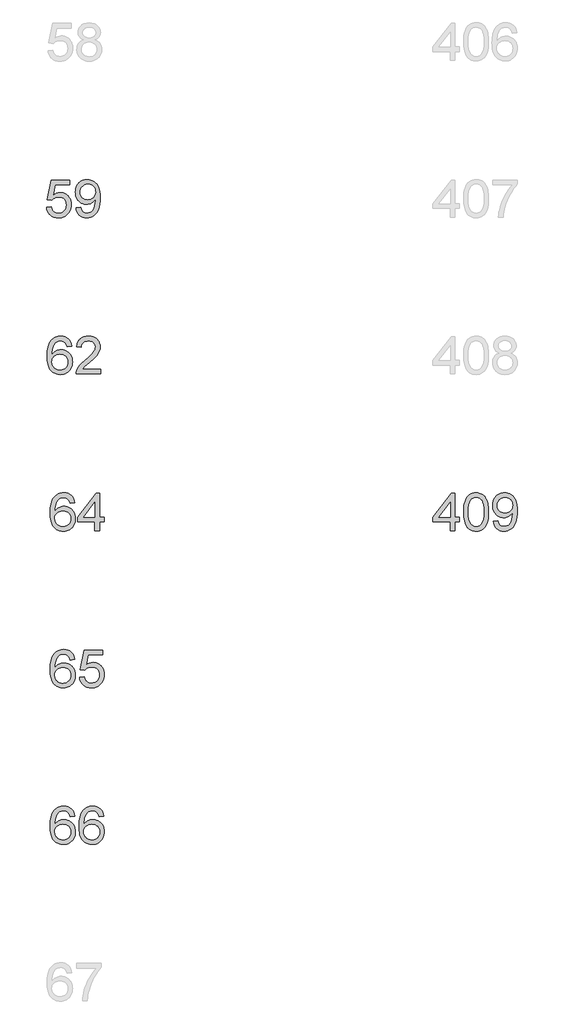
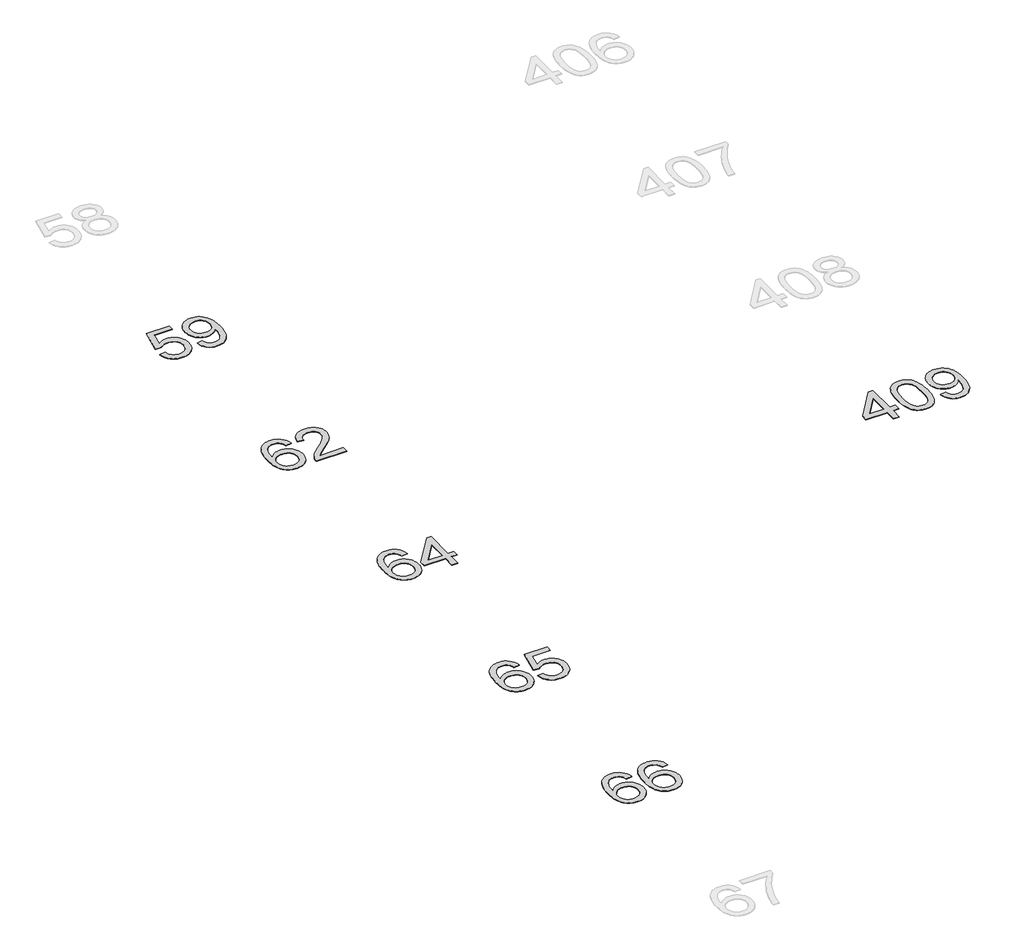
# One storey, part 3 of 19: 6 proxies.
"""IFC4 building model written with IfcOpenShell, lengths in millimetres."""

from ifc_helpers import new_model, si_unit, origin, origin_with_axes, place, context, project, spatial, polyline, outline, extrude, element, save

model = new_model("IFC4")

# Units and contexts
model_context = context("Model", 3, world=origin())
ifc_project = project(units=[si_unit("LENGTHUNIT", "METRE", prefix="MILLI")], contexts=[model_context])

# Site, building, storey
site = spatial("IfcSite", under=ifc_project)
building = spatial("IfcBuilding", under=site)
storey = spatial("IfcBuildingStorey", under=building, Name="Marelli - Linha ACTIVE - Planta Baixa", Elevation=0.0)

# Proxies
placement = place(None, origin())
element("IfcBuildingElementProxy", 1, Name="1200mm Arial", ObjectType="1200mm Arial", at=placement, inside=storey, context=model_context, shape_type="SweptSolid", body=[
    extrude(outline(polyline([(-25312.9802863, -138668.6139517), (-25162.2958211, -138649.7783935), (-25151.038632, -138698.2192552), (-25134.631095, -138740.2405761), (-25113.0732101, -138775.8423562), (-25086.3649772, -138805.0245955), (-25054.5615788, -138827.7505057), (-25017.7181969, -138843.9832988), (-24975.8348318, -138853.7229746), (-24928.9114833, -138856.9695332), (-24871.5218921, -138852.4537817), (-24820.9013295, -138838.9065272), (-24777.0497957, -138816.3277698), (-24739.9672906, -138784.7175093), (-24710.4815487, -138745.6392444), (-24689.4203045, -138700.6564734), (-24676.7835579, -138649.7691965), (-24672.5713091, -138592.9774135), (-24676.5168435, -138539.3034304), (-24688.3534467, -138491.5891356), (-24708.0811187, -138449.8345291), (-24735.6998594, -138414.039611), (-24771.3016395, -138385.3264213), (-24814.9784294, -138364.817), (-24866.7302291, -138352.5113473), (-24926.5570385, -138348.4094631), (-24964.8443572, -138350.0465379), (-24999.655191, -138354.9577626), (-25030.9895399, -138363.143137), (-25058.847404, -138374.6026611), (-25106.1202404, -138404.6954083), (-25143.4602629, -138442.5872538), (-25294.1447281, -138423.7516957), (-25162.2958211, -137802.1782766), (-24578.3935183, -137802.1782766), (-24578.3935183, -137952.8627418), (-25040.4533042, -137952.8627418), (-25104.9062298, -138284.8394543), (-25051.7288874, -138246.7268796), (-24997.263958, -138219.503612), (-24941.5114416, -138203.1696514), (-24884.4713383, -138197.7249978), (-24847.0324475, -138199.4126565), (-24811.0880773, -138204.4756325), (-24776.6382277, -138212.9139257), (-24743.6828987, -138224.7275363), (-24712.2220904, -138239.9164642), (-24682.2558026, -138258.4807093), (-24653.7840354, -138280.4202718), (-24626.8067889, -138305.7351516), (-24602.2161768, -138333.7033803), (-24580.9043129, -138363.6029895), (-24562.8711974, -138395.4339791), (-24548.1168301, -138429.1963492), (-24536.6412111, -138464.8900998), (-24528.4443404, -138502.5152308), (-24523.526218, -138542.0717424), (-24521.8868438, -138583.5596344), (-24527.7913499, -138661.6241938), (-24535.1719824, -138698.6147284), (-24545.5048679, -138734.2440996), (-24558.7900065, -138768.5123075), (-24575.0273981, -138801.4193519), (-24594.2170426, -138832.965233), (-24616.3589402, -138863.1499507), (-24646.3597169, -138897.0180869), (-24678.9724558, -138926.3704716), (-24714.1971568, -138951.2071048), (-24752.03382, -138971.5279865), (-24792.4824454, -138987.3331167), (-24835.5430329, -138998.6224954), (-24881.2155826, -139005.3961227), (-24929.5000945, -139007.6539984), (-25007.2611512, -139001.8506599), (-25043.3204845, -138994.5964869), (-25077.4990212, -138984.4406445), (-25109.7967611, -138971.383133), (-25140.2137043, -138955.4239522), (-25168.7498508, -138936.5631021), (-25195.4052006, -138914.8005828), (-25219.7428939, -138890.6422321), (-25241.3260707, -138864.5938875), (-25260.154731, -138836.6555493), (-25276.228875, -138806.8272173), (-25289.5485024, -138775.1088915), (-25300.1136135, -138741.500572), (-25312.9802863, -138668.6139517)])), origin_with_axes(), (0.0, 0.0, 1.0), 10.0),
    extrude(outline(polyline([(-24371.2023786, -138687.4495098), (-24220.5179134, -138668.6139517), (-24209.6653945, -138714.7923391), (-24194.7661737, -138754.1465155), (-24175.820251, -138786.676481), (-24152.8276263, -138812.3822354), (-24126.045817, -138831.8891782), (-24095.7323406, -138845.8227087), (-24061.8871971, -138854.1828271), (-24024.5103864, -138856.9695332), (-23991.8332681, -138855.1761085), (-23960.6092838, -138849.7958343), (-23930.8384333, -138840.8287107), (-23902.5207168, -138828.2747376), (-23876.6586125, -138812.7225262), (-23854.254599, -138794.7606878), (-23835.3086762, -138774.3892223), (-23819.8208443, -138751.6081298), (-23793.7380108, -138694.8807261), (-23770.5246569, -138620.6421395), (-23754.1906963, -138535.4406694), (-23748.7460428, -138445.8246154), (-23749.6289596, -138416.3940558), (-23773.7160332, -138449.9081055), (-23801.8314147, -138480.1112173), (-23833.975104, -138507.0033912), (-23870.1471012, -138530.5846271), (-23909.1150015, -138549.7696731), (-23949.6464003, -138563.4732774), (-23991.7412976, -138571.69544), (-24035.3996934, -138574.4361609), (-24071.9096822, -138572.7622978), (-24106.9803326, -138567.7407086), (-24140.6116448, -138559.3713932), (-24172.8036186, -138547.6543517), (-24203.5562542, -138532.5895839), (-24232.8695514, -138514.1770901), (-24260.7435103, -138492.4168701), (-24287.1781309, -138467.3089239), (-24311.2858979, -138439.4648554), (-24332.179296, -138409.4962684), (-24349.8583251, -138377.4031628), (-24364.3229853, -138343.1855387), (-24375.5732766, -138306.8433961), (-24383.6091989, -138268.376735), (-24388.4307523, -138227.7855554), (-24390.0379368, -138185.0698572), (-24388.3525774, -138140.9240178), (-24383.2964992, -138098.9854703), (-24374.8697023, -138059.2542149), (-24363.0721865, -138021.7302513), (-24347.903952, -137986.4135798), (-24329.3649987, -137953.3042002), (-24307.4553266, -137922.4021126), (-24282.1749358, -137893.707317), (-24254.3561592, -137867.8406142), (-24224.8313298, -137845.4228052), (-24193.6004477, -137826.4538898), (-24160.6635128, -137810.9338681), (-24126.0205251, -137798.8627401), (-24089.6714848, -137790.2405059), (-24051.6163916, -137785.0671653), (-24011.8552457, -137783.3427185), (-23954.4012751, -137787.2790558), (-23899.4672962, -137799.0880679), (-23847.0533089, -137818.7697546), (-23797.1593133, -137846.324116), (-23751.4499754, -137881.162541), (-23711.5899613, -137922.6964182), (-23677.5792708, -137970.9257478), (-23649.4179041, -138025.8505297), (-23627.3357873, -138090.634549), (-23611.5628468, -138168.441591), (-23602.0990825, -138259.2716556), (-23598.9444943, -138363.1247429), (-23602.0898854, -138472.1925574), (-23611.5260586, -138569.5433304), (-23627.2530139, -138655.1770618), (-23649.2707513, -138729.0937517), (-23677.4964974, -138793.0960218), (-23711.8474787, -138848.9864939), (-23752.3236952, -138896.765168), (-23798.9251469, -138936.4320442), (-23850.7137348, -138967.5916491), (-23906.7513597, -138989.8485099), (-23967.0380217, -139003.2026263), (-24031.5737207, -139007.6539984), (-24099.2456137, -139002.4024829), (-24160.4059954, -138986.6479365), (-24215.0548658, -138960.3903591), (-24263.1922248, -138923.6297507), (-24303.604062, -138877.3593928), (-24335.0763667, -138822.5725666), (-24357.6091389, -138759.2692723), (-24371.2023786, -138687.4495098)]), holes=[polyline([(-23749.6289596, -138181.5381901), (-23753.6940556, -138127.5331132), (-23765.8893438, -138079.4141482), (-23786.214824, -138037.1812951), (-23814.6704963, -138000.834554), (-23849.8584092, -137971.6063295), (-23890.3806109, -137950.7290263), (-23936.2371016, -137938.2026443), (-23987.4278813, -137934.0271837), (-24040.2557358, -137938.5245411), (-24088.0803951, -137952.0166133), (-24130.9018594, -137974.5034002), (-24168.7201285, -138005.984902), (-24199.6222161, -138044.6217085), (-24221.6951358, -138088.5744099), (-24234.9388876, -138137.8430061), (-24239.3534716, -138192.4274971), (-24235.1780109, -138241.3833936), (-24222.651629, -138285.5384301), (-24201.7743257, -138324.8926065), (-24172.5461012, -138359.4459229), (-24136.180966, -138387.5796985), (-24093.8929307, -138407.6752525), (-24045.6819952, -138419.7325849), (-23991.5481596, -138423.7516957), (-23941.0655528, -138419.7325849), (-23895.2734415, -138407.6752525), (-23854.1718256, -138387.5796985), (-23817.7607051, -138359.4459229), (-23787.9530664, -138324.2120248), (-23766.6618959, -138282.8161033), (-23753.8871937, -138235.2581584), (-23749.6289596, -138181.5381901)])]), origin_with_axes(), (0.0, 0.0, 1.0), 10.0),
])
element("IfcBuildingElementProxy", 2, Name="1200mm Arial", ObjectType="1200mm Arial", at=placement, inside=storey, context=model_context, shape_type="SweptSolid", body=[
    extrude(outline(polyline([(-24503.0512857, -143103.5472071), (-24653.7357509, -143122.3827652), (-24664.808999, -143082.0812927), (-24678.0159626, -143047.7027202), (-24693.3566418, -143019.2470479), (-24710.8310366, -142996.7142757), (-24743.2230462, -142969.2886729), (-24779.1835113, -142949.6989567), (-24818.7124317, -142937.9451269), (-24861.8098074, -142934.0271837), (-24897.3472081, -142936.3080521), (-24931.8545393, -142943.1506572), (-24965.3318008, -142954.554999), (-24997.7789928, -142970.5210776), (-25027.3842964, -142996.6315022), (-25054.3960319, -143028.1681863), (-25078.8141993, -143065.1311297), (-25100.6387987, -143107.5203326), (-25118.7110017, -143158.1316981), (-25131.87198, -143219.7611293), (-25140.1217338, -143292.4086263), (-25143.4602629, -143376.0741891), (-25114.7378761, -143338.2099347), (-25083.0172511, -143305.5512106), (-25048.2983878, -143278.0980167), (-25010.5812862, -143255.8503531), (-24970.8776219, -143238.6610669), (-24930.1990703, -143226.3830053), (-24888.5456314, -143219.0161683), (-24845.9173052, -143216.560556), (-24809.0187411, -143218.2390176), (-24773.5181285, -143223.2744024), (-24739.4154676, -143231.6667104), (-24706.7107582, -143243.4159416), (-24675.4040004, -143258.5220961), (-24645.4951942, -143276.9851737), (-24616.9843396, -143298.8051745), (-24589.8714366, -143323.9820986), (-24565.1083798, -143351.81697), (-24543.6470639, -143381.6108131), (-24525.4874889, -143413.3636278), (-24510.6296548, -143447.0754142), (-24499.0735616, -143482.7461721), (-24490.8192094, -143520.3759017), (-24485.866598, -143559.9646029), (-24484.2157275, -143601.5122757), (-24487.3243304, -143656.4462547), (-24496.650139, -143709.4120649), (-24512.1931533, -143760.4097065), (-24533.9533733, -143809.4391794), (-24561.1582468, -143854.6702707), (-24593.0352217, -143894.2727675), (-24629.5842979, -143928.2466698), (-24670.8054755, -143956.5919775), (-24715.8158376, -143978.9316116), (-24763.7324675, -143994.8884932), (-24814.5553651, -144004.4626221), (-24868.2845305, -144007.6539984), (-24914.2858747, -144005.5386769), (-24958.1121167, -143999.1927125), (-24999.7632563, -143988.6161052), (-25039.2392937, -143973.8088549), (-25076.5402287, -143954.7709616), (-25111.6660615, -143931.5024254), (-25144.6167919, -143904.0032463), (-25175.3924201, -143872.2734242), (-25203.2249923, -143835.6875598), (-25227.3465548, -143793.6202536), (-25247.7571078, -143746.0715057), (-25264.4566511, -143693.0413161), (-25277.4451848, -143634.5296848), (-25286.7227089, -143570.5366118), (-25292.2892233, -143501.062097), (-25294.1447281, -143426.1061404), (-25292.0845889, -143342.1784618), (-25285.9041714, -143264.1828803), (-25275.6034756, -143192.1193959), (-25261.1825014, -143125.9880088), (-25242.6412488, -143065.7887188), (-25219.9797179, -143011.521526), (-25193.1979086, -142963.1864303), (-25162.2958211, -142920.7834319), (-25132.2812488, -142888.5707647), (-25099.774276, -142860.6531198), (-25064.7749027, -142837.0304971), (-25027.2831288, -142817.7028968), (-24987.2989545, -142802.6703188), (-24944.8223796, -142791.9327631), (-24899.8534042, -142785.4902296), (-24852.3920283, -142783.3427185), (-24782.9910899, -142788.6586133), (-24720.1752392, -142804.6062978), (-24663.9444763, -142831.1857719), (-24614.298801, -142868.3970358), (-24572.5809828, -142914.9892904), (-24540.1337908, -142969.7117372), (-24516.9572251, -143032.5643761), (-24503.0512857, -143103.5472071)]), holes=[polyline([(-25143.4602629, -143599.157831), (-25141.2805621, -143632.9202011), (-25134.7414596, -143665.9284131), (-25123.8429555, -143698.182467), (-25108.5850498, -143729.6823629), (-25089.7127034, -143758.9473756), (-25067.9708775, -143784.4967801), (-25043.359572, -143806.3305766), (-25015.878787, -143824.4487648), (-24985.7032663, -143838.676601), (-24953.007754, -143848.8393411), (-24917.79225, -143854.9369852), (-24880.0567544, -143856.9695332), (-24827.6795553, -143852.7572844), (-24780.6182511, -143840.1205378), (-24738.8728417, -143819.0592936), (-24702.4433271, -143789.5735517), (-24672.8932058, -143752.8589286), (-24651.7859763, -143710.1110407), (-24639.1216387, -143661.3298882), (-24634.9001928, -143606.5154709), (-24639.0664564, -143553.8439662), (-24651.5652471, -143507.0769676), (-24672.3965651, -143466.214475), (-24701.5604103, -143431.2564884), (-24738.1002895, -143403.2514715), (-24781.0597094, -143383.247888), (-24830.4386703, -143371.2457379), (-24886.2371719, -143367.2450212), (-24937.9153951, -143371.2457379), (-24985.5285224, -143383.247888), (-25029.0765535, -143403.2514715), (-25068.5594887, -143431.2564884), (-25101.3285774, -143465.7546225), (-25124.7350693, -143505.2375576), (-25138.7789645, -143549.7052938), (-25143.4602629, -143599.157831)])]), origin_with_axes(), (0.0, 0.0, 1.0), 10.0),
    extrude(outline(polyline([(-23580.1089362, -143838.133975), (-23580.1089362, -143988.8184403), (-24371.2023786, -143988.8184403), (-24367.8914407, -143935.7698566), (-24355.0155708, -143884.9285648), (-24338.5896398, -143844.029284), (-24317.8594893, -143803.7370085), (-24292.8251196, -143764.0517383), (-24263.4865304, -143724.9734733), (-24228.0778884, -143684.9755034), (-24184.8333599, -143642.5311182), (-24074.8366433, -143550.303102), (-23985.4045303, -143473.3605827), (-23912.2328014, -143405.8726307), (-23855.3214568, -143347.839246), (-23814.6704963, -143299.2604285), (-23786.214824, -143255.7032003), (-23765.8893438, -143212.7345832), (-23753.6940556, -143170.3545774), (-23749.6289596, -143128.5631827), (-23753.4641294, -143089.2457945), (-23764.9696388, -143053.1105855), (-23784.1454878, -143020.1575558), (-23810.9916764, -142990.3867054), (-23844.0182825, -142965.7294146), (-23881.735384, -142948.1170641), (-23924.142981, -142937.5496538), (-23971.2410735, -142934.0271837), (-24020.8591576, -142937.4668804), (-24065.2349232, -142947.7859703), (-24104.3683705, -142964.9844536), (-24138.2594993, -142989.0623302), (-24165.675905, -143019.2102597), (-24185.3851829, -143054.6189017), (-24197.387333, -143095.2882563), (-24201.6823552, -143141.2183234), (-24352.3668205, -143122.3827652), (-24339.4081772, -143044.5941173), (-24328.9488322, -143009.3832119), (-24315.8361383, -142976.6279187), (-24300.0700956, -142946.3282379), (-24281.6507039, -142918.4841694), (-24260.5779634, -142893.0957132), (-24236.851874, -142870.1628693), (-24210.7299531, -142849.8143965), (-24182.469718, -142832.1790533), (-24152.0711689, -142817.2568399), (-24119.5343057, -142805.0477562), (-24048.045637, -142788.7689779), (-23968.0037119, -142783.3427185), (-23887.2444169, -142789.3759832), (-23850.1964007, -142796.9175641), (-23815.3694721, -142807.4757774), (-23782.763631, -142821.050623), (-23752.3788775, -142837.642101), (-23724.2152115, -142857.2502113), (-23698.272633, -142879.874954), (-23674.9926005, -142904.7345798), (-23654.8165724, -142931.0473395), (-23637.7445485, -142958.8132331), (-23623.776529, -142988.0322606), (-23612.9125139, -143018.7044219), (-23605.152503, -143050.8297172), (-23600.4964965, -143084.4081463), (-23598.9444943, -143119.4397093), (-23600.6183574, -143155.6301005), (-23605.6399467, -143191.5077921), (-23614.0092621, -143227.072784), (-23625.7263036, -143262.3250762), (-23641.3336972, -143297.880871), (-23661.3740689, -143334.3563708), (-23714.7537464, -143410.0664855), (-23751.5879312, -143452.0510182), (-23799.8448519, -143500.4550917), (-23930.6269012, -143616.5218611), (-24103.9728973, -143761.4673672), (-24141.5704372, -143799.6903065), (-24171.95749, -143838.133975), (-23580.1089362, -143838.133975)])), origin_with_axes(), (0.0, 0.0, 1.0), 10.0),
])
element("IfcBuildingElementProxy", 3, Name="1200mm Arial", ObjectType="1200mm Arial", at=placement, inside=storey, context=model_context, shape_type="SweptSolid", body=[
    extrude(outline(polyline([(-24408.8734949, -148103.5472071), (-24559.5579602, -148122.3827652), (-24570.6312082, -148082.0812927), (-24583.8381718, -148047.7027202), (-24599.178851, -148019.2470479), (-24616.6532458, -147996.7142757), (-24649.0452555, -147969.2886729), (-24685.0057205, -147949.6989567), (-24724.5346409, -147937.9451269), (-24767.6320166, -147934.0271837), (-24803.1694174, -147936.3080521), (-24837.6767485, -147943.1506572), (-24871.1540101, -147954.554999), (-24903.601202, -147970.5210776), (-24933.2065056, -147996.6315022), (-24960.2182411, -148028.1681863), (-24984.6364085, -148065.1311297), (-25006.4610079, -148107.5203326), (-25024.5332109, -148158.1316981), (-25037.6941893, -148219.7611294), (-25045.943943, -148292.4086263), (-25049.2824721, -148376.0741891), (-25020.5600854, -148338.2099347), (-24988.8394603, -148305.5512106), (-24954.120597, -148278.0980167), (-24916.4034955, -148255.8503531), (-24876.6998311, -148238.6610669), (-24836.0212795, -148226.3830053), (-24794.3678406, -148219.0161683), (-24751.7395144, -148216.560556), (-24714.8409503, -148218.2390176), (-24679.3403378, -148223.2744024), (-24645.2376768, -148231.6667104), (-24612.5329675, -148243.4159416), (-24581.2262097, -148258.5220961), (-24551.3174035, -148276.9851737), (-24522.8065488, -148298.8051745), (-24495.6936458, -148323.9820986), (-24470.930589, -148351.81697), (-24449.4692731, -148381.6108131), (-24431.3096981, -148413.3636278), (-24416.451864, -148447.0754142), (-24404.8957709, -148482.7461721), (-24396.6414186, -148520.3759017), (-24391.6888072, -148559.9646029), (-24390.0379368, -148601.5122757), (-24393.1465396, -148656.4462547), (-24402.4723482, -148709.4120649), (-24418.0153625, -148760.4097065), (-24439.7755825, -148809.4391794), (-24466.9804561, -148854.6702707), (-24498.8574309, -148894.2727675), (-24535.4065072, -148928.2466698), (-24576.6276847, -148956.5919775), (-24621.6380468, -148978.9316116), (-24669.5546767, -148994.8884932), (-24720.3775743, -149004.4626221), (-24774.1067397, -149007.6539984), (-24820.108084, -149005.5386769), (-24863.9343259, -148999.1927125), (-24905.5854656, -148988.6161052), (-24945.0615029, -148973.8088549), (-24982.3624379, -148954.7709616), (-25017.4882707, -148931.5024254), (-25050.4390012, -148904.0032463), (-25081.2146293, -148872.2734242), (-25109.0472015, -148835.6875598), (-25133.1687641, -148793.6202536), (-25153.579317, -148746.0715057), (-25170.2788603, -148693.0413161), (-25183.267394, -148634.5296848), (-25192.5449181, -148570.5366118), (-25198.1114325, -148501.062097), (-25199.9669374, -148426.1061404), (-25197.9067982, -148342.1784618), (-25191.7263807, -148264.1828803), (-25181.4256848, -148192.1193959), (-25167.0047106, -148125.9880088), (-25148.463458, -148065.7887188), (-25125.8019271, -148011.521526), (-25099.0201179, -147963.1864303), (-25068.1180303, -147920.7834319), (-25038.103458, -147888.5707647), (-25005.5964852, -147860.6531198), (-24970.5971119, -147837.0304971), (-24933.1053381, -147817.7028968), (-24893.1211637, -147802.6703188), (-24850.6445888, -147791.9327631), (-24805.6756135, -147785.4902296), (-24758.2142375, -147783.3427185), (-24688.8132992, -147788.6586133), (-24625.9974485, -147804.6062978), (-24569.7666855, -147831.1857719), (-24520.1210103, -147868.3970358), (-24478.403192, -147914.9892904), (-24445.956, -147969.7117372), (-24422.7794343, -148032.5643761), (-24408.8734949, -148103.5472071)]), holes=[polyline([(-25049.2824721, -148599.157831), (-25047.1027713, -148632.9202011), (-25040.5636688, -148665.9284131), (-25029.6651647, -148698.182467), (-25014.407259, -148729.6823629), (-24995.5349126, -148758.9473756), (-24973.7930867, -148784.4967801), (-24949.1817812, -148806.3305766), (-24921.7009962, -148824.4487648), (-24891.5254756, -148838.676601), (-24858.8299632, -148848.8393411), (-24823.6144592, -148854.9369852), (-24785.8789636, -148856.9695332), (-24733.5017645, -148852.7572844), (-24686.4404603, -148840.1205378), (-24644.6950509, -148819.0592936), (-24608.2655363, -148789.5735517), (-24578.7154151, -148752.8589286), (-24557.6081856, -148710.1110407), (-24544.9438479, -148661.3298882), (-24540.722402, -148606.5154709), (-24544.8886656, -148553.8439662), (-24557.3874564, -148507.0769676), (-24578.2187744, -148466.214475), (-24607.3826195, -148431.2564884), (-24643.9224987, -148403.2514715), (-24686.8819187, -148383.247888), (-24736.2608795, -148371.2457379), (-24792.0593811, -148367.2450212), (-24843.7376044, -148371.2457379), (-24891.3507316, -148383.247888), (-24934.8987628, -148403.2514715), (-24974.3816979, -148431.2564884), (-25007.1507866, -148465.7546225), (-25030.5572786, -148505.2375576), (-25044.6011737, -148549.7052938), (-25049.2824721, -148599.157831)])]), origin_with_axes(), (0.0, 0.0, 1.0), 10.0),
    extrude(outline(polyline([(-23768.4645177, -148988.8184403), (-23768.4645177, -148706.285068), (-24314.6957042, -148706.285068), (-24314.6957042, -148555.6006027), (-23730.7934014, -147802.1782766), (-23617.7800525, -147802.1782766), (-23617.7800525, -148555.6006027), (-23467.0955873, -148555.6006027), (-23467.0955873, -148706.285068), (-23617.7800525, -148706.285068), (-23617.7800525, -148988.8184403), (-23768.4645177, -148988.8184403)]), holes=[polyline([(-23768.4645177, -148555.6006027), (-23768.4645177, -148090.0091497), (-24129.2831786, -148555.6006027), (-23768.4645177, -148555.6006027)])]), origin_with_axes(), (0.0, 0.0, 1.0), 10.0),
])
element("IfcBuildingElementProxy", 4, Name="1200mm Arial", ObjectType="1200mm Arial", at=placement, inside=storey, context=model_context, shape_type="SweptSolid", body=[
    extrude(outline(polyline([(-24408.8734949, -153103.5472071), (-24559.5579602, -153122.3827652), (-24570.6312082, -153082.0812927), (-24583.8381718, -153047.7027202), (-24599.178851, -153019.2470479), (-24616.6532458, -152996.7142757), (-24649.0452555, -152969.2886729), (-24685.0057205, -152949.6989567), (-24724.5346409, -152937.9451269), (-24767.6320166, -152934.0271837), (-24803.1694174, -152936.3080521), (-24837.6767485, -152943.1506572), (-24871.1540101, -152954.554999), (-24903.601202, -152970.5210776), (-24933.2065056, -152996.6315022), (-24960.2182411, -153028.1681863), (-24984.6364085, -153065.1311297), (-25006.4610079, -153107.5203326), (-25024.5332109, -153158.1316981), (-25037.6941893, -153219.7611293), (-25045.943943, -153292.4086263), (-25049.2824721, -153376.0741891), (-25020.5600854, -153338.2099347), (-24988.8394603, -153305.5512106), (-24954.120597, -153278.0980167), (-24916.4034955, -153255.8503531), (-24876.6998311, -153238.6610669), (-24836.0212795, -153226.3830053), (-24794.3678406, -153219.0161683), (-24751.7395144, -153216.560556), (-24714.8409503, -153218.2390176), (-24679.3403378, -153223.2744024), (-24645.2376768, -153231.6667104), (-24612.5329675, -153243.4159416), (-24581.2262097, -153258.5220961), (-24551.3174035, -153276.9851737), (-24522.8065488, -153298.8051745), (-24495.6936458, -153323.9820986), (-24470.930589, -153351.81697), (-24449.4692731, -153381.6108131), (-24431.3096981, -153413.3636278), (-24416.451864, -153447.0754142), (-24404.8957709, -153482.7461721), (-24396.6414186, -153520.3759017), (-24391.6888072, -153559.9646029), (-24390.0379368, -153601.5122757), (-24393.1465396, -153656.4462547), (-24402.4723482, -153709.4120649), (-24418.0153625, -153760.4097065), (-24439.7755825, -153809.4391794), (-24466.9804561, -153854.6702707), (-24498.8574309, -153894.2727675), (-24535.4065072, -153928.2466698), (-24576.6276847, -153956.5919775), (-24621.6380468, -153978.9316116), (-24669.5546767, -153994.8884932), (-24720.3775743, -154004.4626221), (-24774.1067397, -154007.6539984), (-24820.108084, -154005.5386769), (-24863.9343259, -153999.1927125), (-24905.5854656, -153988.6161052), (-24945.0615029, -153973.8088549), (-24982.3624379, -153954.7709616), (-25017.4882707, -153931.5024254), (-25050.4390012, -153904.0032463), (-25081.2146293, -153872.2734242), (-25109.0472015, -153835.6875598), (-25133.1687641, -153793.6202536), (-25153.579317, -153746.0715057), (-25170.2788603, -153693.0413161), (-25183.267394, -153634.5296848), (-25192.5449181, -153570.5366118), (-25198.1114325, -153501.062097), (-25199.9669374, -153426.1061404), (-25197.9067982, -153342.1784618), (-25191.7263807, -153264.1828803), (-25181.4256848, -153192.1193959), (-25167.0047106, -153125.9880088), (-25148.463458, -153065.7887188), (-25125.8019271, -153011.521526), (-25099.0201179, -152963.1864303), (-25068.1180303, -152920.7834319), (-25038.103458, -152888.5707647), (-25005.5964852, -152860.6531198), (-24970.5971119, -152837.0304971), (-24933.1053381, -152817.7028968), (-24893.1211637, -152802.6703188), (-24850.6445888, -152791.9327631), (-24805.6756135, -152785.4902296), (-24758.2142375, -152783.3427185), (-24688.8132992, -152788.6586133), (-24625.9974485, -152804.6062978), (-24569.7666855, -152831.1857719), (-24520.1210103, -152868.3970358), (-24478.403192, -152914.9892904), (-24445.956, -152969.7117372), (-24422.7794343, -153032.5643761), (-24408.8734949, -153103.5472071)]), holes=[polyline([(-25049.2824721, -153599.157831), (-25047.1027713, -153632.9202011), (-25040.5636688, -153665.9284131), (-25029.6651647, -153698.182467), (-25014.407259, -153729.6823629), (-24995.5349126, -153758.9473756), (-24973.7930867, -153784.4967801), (-24949.1817812, -153806.3305766), (-24921.7009962, -153824.4487648), (-24891.5254756, -153838.676601), (-24858.8299632, -153848.8393411), (-24823.6144592, -153854.9369852), (-24785.8789636, -153856.9695332), (-24733.5017645, -153852.7572844), (-24686.4404603, -153840.1205378), (-24644.6950509, -153819.0592936), (-24608.2655363, -153789.5735517), (-24578.7154151, -153752.8589286), (-24557.6081856, -153710.1110407), (-24544.9438479, -153661.3298882), (-24540.722402, -153606.5154709), (-24544.8886656, -153553.8439662), (-24557.3874564, -153507.0769676), (-24578.2187744, -153466.214475), (-24607.3826195, -153431.2564884), (-24643.9224987, -153403.2514715), (-24686.8819187, -153383.247888), (-24736.2608795, -153371.2457379), (-24792.0593811, -153367.2450212), (-24843.7376044, -153371.2457379), (-24891.3507316, -153383.247888), (-24934.8987628, -153403.2514715), (-24974.3816979, -153431.2564884), (-25007.1507866, -153465.7546225), (-25030.5572786, -153505.2375576), (-25044.6011737, -153549.7052938), (-25049.2824721, -153599.157831)])]), origin_with_axes(), (0.0, 0.0, 1.0), 10.0),
    extrude(outline(polyline([(-24258.1890297, -153668.6139517), (-24107.5045645, -153649.7783935), (-24096.2473754, -153698.2192552), (-24079.8398384, -153740.2405761), (-24058.2819535, -153775.8423562), (-24031.5737207, -153805.0245955), (-23999.7703222, -153827.7505057), (-23962.9269404, -153843.9832988), (-23921.0435752, -153853.7229746), (-23874.1202267, -153856.9695332), (-23816.7306355, -153852.4537817), (-23766.110073, -153838.9065272), (-23722.2585391, -153816.3277698), (-23685.176034, -153784.7175093), (-23655.6902921, -153745.6392444), (-23634.6290479, -153700.6564734), (-23621.9923013, -153649.7691965), (-23617.7800525, -153592.9774135), (-23621.7255869, -153539.3034304), (-23633.5621901, -153491.5891356), (-23653.2898621, -153449.8345291), (-23680.9086029, -153414.039611), (-23716.510383, -153385.3264213), (-23760.1871728, -153364.817), (-23811.9389725, -153352.5113473), (-23871.765782, -153348.4094631), (-23910.0531006, -153350.0465379), (-23944.8639344, -153354.9577626), (-23976.1982834, -153363.143137), (-24004.0561474, -153374.6026611), (-24051.3289838, -153404.6954083), (-24088.6690063, -153442.5872538), (-24239.3534716, -153423.7516957), (-24107.5045645, -152802.1782766), (-23523.6022617, -152802.1782766), (-23523.6022617, -152952.8627418), (-23985.6620477, -152952.8627418), (-24050.1149732, -153284.8394543), (-23996.9376308, -153246.7268796), (-23942.4727014, -153219.503612), (-23886.7201851, -153203.1696514), (-23829.6800817, -153197.7249978), (-23792.2411909, -153199.4126565), (-23756.2968207, -153204.4756325), (-23721.8469711, -153212.9139257), (-23688.8916422, -153224.7275363), (-23657.4308338, -153239.9164642), (-23627.464546, -153258.4807093), (-23598.9927789, -153280.4202718), (-23572.0155323, -153305.7351516), (-23547.4249202, -153333.7033803), (-23526.1130564, -153363.6029895), (-23508.0799408, -153395.4339791), (-23493.3255735, -153429.1963492), (-23481.8499545, -153464.8900998), (-23473.6530838, -153502.5152308), (-23468.7349614, -153542.0717424), (-23467.0955873, -153583.5596344), (-23473.0000933, -153661.6241938), (-23480.3807258, -153698.6147284), (-23490.7136114, -153734.2440996), (-23503.9987499, -153768.5123075), (-23520.2361415, -153801.4193519), (-23539.4257861, -153832.965233), (-23561.5676836, -153863.1499507), (-23591.5684603, -153897.0180869), (-23624.1811992, -153926.3704716), (-23659.4059003, -153951.2071048), (-23697.2425635, -153971.5279865), (-23737.6911888, -153987.3331167), (-23780.7517764, -153998.6224954), (-23826.4243261, -154005.3961227), (-23874.7088379, -154007.6539984), (-23952.4698947, -154001.8506599), (-23988.529228, -153994.5964869), (-24022.7077646, -153984.4406445), (-24055.0055045, -153971.383133), (-24085.4224477, -153955.4239522), (-24113.9585942, -153936.5631021), (-24140.613944, -153914.8005828), (-24164.9516373, -153890.6422321), (-24186.5348141, -153864.5938875), (-24205.3634745, -153836.6555493), (-24221.4376184, -153806.8272173), (-24234.7572459, -153775.1088915), (-24245.3223569, -153741.500572), (-24258.1890297, -153668.6139517)])), origin_with_axes(), (0.0, 0.0, 1.0), 10.0),
])
element("IfcBuildingElementProxy", 5, Name="1200mm Arial", ObjectType="1200mm Arial", at=placement, inside=storey, context=model_context, shape_type="SweptSolid", body=[
    extrude(outline(polyline([(-24408.8734949, -158103.5472071), (-24559.5579602, -158122.3827652), (-24570.6312082, -158082.0812927), (-24583.8381718, -158047.7027202), (-24599.178851, -158019.2470479), (-24616.6532458, -157996.7142757), (-24649.0452555, -157969.2886729), (-24685.0057205, -157949.6989567), (-24724.5346409, -157937.9451269), (-24767.6320166, -157934.0271837), (-24803.1694174, -157936.3080521), (-24837.6767485, -157943.1506572), (-24871.1540101, -157954.554999), (-24903.601202, -157970.5210776), (-24933.2065056, -157996.6315022), (-24960.2182411, -158028.1681863), (-24984.6364085, -158065.1311297), (-25006.4610079, -158107.5203326), (-25024.5332109, -158158.1316981), (-25037.6941893, -158219.7611293), (-25045.943943, -158292.4086263), (-25049.2824721, -158376.0741891), (-25020.5600854, -158338.2099347), (-24988.8394603, -158305.5512106), (-24954.120597, -158278.0980167), (-24916.4034955, -158255.8503531), (-24876.6998311, -158238.6610669), (-24836.0212795, -158226.3830053), (-24794.3678406, -158219.0161683), (-24751.7395144, -158216.560556), (-24714.8409503, -158218.2390176), (-24679.3403378, -158223.2744024), (-24645.2376768, -158231.6667104), (-24612.5329675, -158243.4159416), (-24581.2262097, -158258.5220961), (-24551.3174035, -158276.9851737), (-24522.8065488, -158298.8051745), (-24495.6936458, -158323.9820986), (-24470.930589, -158351.81697), (-24449.4692731, -158381.6108131), (-24431.3096981, -158413.3636278), (-24416.451864, -158447.0754142), (-24404.8957709, -158482.7461721), (-24396.6414186, -158520.3759017), (-24391.6888072, -158559.9646029), (-24390.0379368, -158601.5122757), (-24393.1465396, -158656.4462547), (-24402.4723482, -158709.4120649), (-24418.0153625, -158760.4097065), (-24439.7755825, -158809.4391794), (-24466.9804561, -158854.6702707), (-24498.8574309, -158894.2727675), (-24535.4065072, -158928.2466698), (-24576.6276847, -158956.5919775), (-24621.6380468, -158978.9316116), (-24669.5546767, -158994.8884932), (-24720.3775743, -159004.4626221), (-24774.1067397, -159007.6539984), (-24820.108084, -159005.5386769), (-24863.9343259, -158999.1927125), (-24905.5854656, -158988.6161052), (-24945.0615029, -158973.8088549), (-24982.3624379, -158954.7709616), (-25017.4882707, -158931.5024254), (-25050.4390012, -158904.0032463), (-25081.2146293, -158872.2734242), (-25109.0472015, -158835.6875598), (-25133.1687641, -158793.6202536), (-25153.579317, -158746.0715057), (-25170.2788603, -158693.0413161), (-25183.267394, -158634.5296848), (-25192.5449181, -158570.5366118), (-25198.1114325, -158501.062097), (-25199.9669374, -158426.1061404), (-25197.9067982, -158342.1784618), (-25191.7263807, -158264.1828803), (-25181.4256848, -158192.1193959), (-25167.0047106, -158125.9880088), (-25148.463458, -158065.7887188), (-25125.8019271, -158011.521526), (-25099.0201179, -157963.1864303), (-25068.1180303, -157920.7834319), (-25038.103458, -157888.5707647), (-25005.5964852, -157860.6531198), (-24970.5971119, -157837.0304971), (-24933.1053381, -157817.7028968), (-24893.1211637, -157802.6703188), (-24850.6445888, -157791.9327631), (-24805.6756135, -157785.4902296), (-24758.2142375, -157783.3427185), (-24688.8132992, -157788.6586133), (-24625.9974485, -157804.6062978), (-24569.7666855, -157831.1857719), (-24520.1210103, -157868.3970358), (-24478.403192, -157914.9892904), (-24445.956, -157969.7117372), (-24422.7794343, -158032.5643761), (-24408.8734949, -158103.5472071)]), holes=[polyline([(-25049.2824721, -158599.157831), (-25047.1027713, -158632.9202011), (-25040.5636688, -158665.9284131), (-25029.6651647, -158698.182467), (-25014.407259, -158729.6823629), (-24995.5349126, -158758.9473756), (-24973.7930867, -158784.4967801), (-24949.1817812, -158806.3305766), (-24921.7009962, -158824.4487648), (-24891.5254756, -158838.676601), (-24858.8299632, -158848.8393411), (-24823.6144592, -158854.9369852), (-24785.8789636, -158856.9695332), (-24733.5017645, -158852.7572844), (-24686.4404603, -158840.1205378), (-24644.6950509, -158819.0592936), (-24608.2655363, -158789.5735517), (-24578.7154151, -158752.8589286), (-24557.6081856, -158710.1110407), (-24544.9438479, -158661.3298882), (-24540.722402, -158606.5154709), (-24544.8886656, -158553.8439662), (-24557.3874564, -158507.0769676), (-24578.2187744, -158466.214475), (-24607.3826195, -158431.2564884), (-24643.9224987, -158403.2514715), (-24686.8819187, -158383.247888), (-24736.2608795, -158371.2457379), (-24792.0593811, -158367.2450212), (-24843.7376044, -158371.2457379), (-24891.3507316, -158383.247888), (-24934.8987628, -158403.2514715), (-24974.3816979, -158431.2564884), (-25007.1507866, -158465.7546225), (-25030.5572786, -158505.2375576), (-25044.6011737, -158549.7052938), (-25049.2824721, -158599.157831)])]), origin_with_axes(), (0.0, 0.0, 1.0), 10.0),
    extrude(outline(polyline([(-23485.9311454, -158103.5472071), (-23636.6156107, -158122.3827652), (-23647.6888587, -158082.0812927), (-23660.8958223, -158047.7027202), (-23676.2365015, -158019.2470479), (-23693.7108963, -157996.7142757), (-23726.102906, -157969.2886729), (-23762.063371, -157949.6989567), (-23801.5922914, -157937.9451269), (-23844.6896671, -157934.0271837), (-23880.2270679, -157936.3080521), (-23914.734399, -157943.1506572), (-23948.2116606, -157954.554999), (-23980.6588525, -157970.5210776), (-24010.2641561, -157996.6315022), (-24037.2758916, -158028.1681863), (-24061.694059, -158065.1311297), (-24083.5186584, -158107.5203326), (-24101.5908614, -158158.1316981), (-24114.7518398, -158219.7611293), (-24123.0015935, -158292.4086263), (-24126.3401226, -158376.0741891), (-24097.6177359, -158338.2099347), (-24065.8971108, -158305.5512106), (-24031.1782475, -158278.0980167), (-23993.461146, -158255.8503531), (-23953.7574816, -158238.6610669), (-23913.07893, -158226.3830053), (-23871.4254911, -158219.0161683), (-23828.7971649, -158216.560556), (-23791.8986008, -158218.2390176), (-23756.3979883, -158223.2744024), (-23722.2953273, -158231.6667104), (-23689.590618, -158243.4159416), (-23658.2838602, -158258.5220961), (-23628.375054, -158276.9851737), (-23599.8641993, -158298.8051745), (-23572.7512963, -158323.9820986), (-23547.9882395, -158351.81697), (-23526.5269236, -158381.6108131), (-23508.3673486, -158413.3636278), (-23493.5095145, -158447.0754142), (-23481.9534214, -158482.7461721), (-23473.6990691, -158520.3759017), (-23468.7464577, -158559.9646029), (-23467.0955873, -158601.5122757), (-23470.2041901, -158656.4462547), (-23479.5299987, -158709.4120649), (-23495.073013, -158760.4097065), (-23516.833233, -158809.4391794), (-23544.0381066, -158854.6702707), (-23575.9150814, -158894.2727675), (-23612.4641577, -158928.2466698), (-23653.6853352, -158956.5919775), (-23698.6956973, -158978.9316116), (-23746.6123272, -158994.8884932), (-23797.4352248, -159004.4626221), (-23851.1643902, -159007.6539984), (-23897.1657345, -159005.5386769), (-23940.9919764, -158999.1927125), (-23982.6431161, -158988.6161052), (-24022.1191534, -158973.8088549), (-24059.4200884, -158954.7709616), (-24094.5459212, -158931.5024254), (-24127.4966517, -158904.0032463), (-24158.2722798, -158872.2734242), (-24186.104852, -158835.6875598), (-24210.2264146, -158793.6202536), (-24230.6369675, -158746.0715057), (-24247.3365108, -158693.0413161), (-24260.3250445, -158634.5296848), (-24269.6025686, -158570.5366118), (-24275.169083, -158501.062097), (-24277.0245879, -158426.1061404), (-24274.9644487, -158342.1784618), (-24268.7840312, -158264.1828803), (-24258.4833353, -158192.1193959), (-24244.0623611, -158125.9880088), (-24225.5211085, -158065.7887188), (-24202.8595776, -158011.521526), (-24176.0777684, -157963.1864303), (-24145.1756808, -157920.7834319), (-24115.1611085, -157888.5707647), (-24082.6541357, -157860.6531198), (-24047.6547624, -157837.0304971), (-24010.1629886, -157817.7028968), (-23970.1788142, -157802.6703188), (-23927.7022393, -157791.9327631), (-23882.733264, -157785.4902296), (-23835.271888, -157783.3427185), (-23765.8709497, -157788.6586133), (-23703.055099, -157804.6062978), (-23646.824336, -157831.1857719), (-23597.1786608, -157868.3970358), (-23555.4608425, -157914.9892904), (-23523.0136505, -157969.7117372), (-23499.8370848, -158032.5643761), (-23485.9311454, -158103.5472071)]), holes=[polyline([(-24126.3401226, -158599.157831), (-24124.1604218, -158632.9202011), (-24117.6213193, -158665.9284131), (-24106.7228152, -158698.182467), (-24091.4649095, -158729.6823629), (-24072.5925631, -158758.9473756), (-24050.8507372, -158784.4967801), (-24026.2394317, -158806.3305766), (-23998.7586467, -158824.4487648), (-23968.5831261, -158838.676601), (-23935.8876137, -158848.8393411), (-23900.6721097, -158854.9369852), (-23862.9366141, -158856.9695332), (-23810.559415, -158852.7572844), (-23763.4981108, -158840.1205378), (-23721.7527014, -158819.0592936), (-23685.3231868, -158789.5735517), (-23655.7730656, -158752.8589286), (-23634.6658361, -158710.1110407), (-23622.0014984, -158661.3298882), (-23617.7800525, -158606.5154709), (-23621.9463161, -158553.8439662), (-23634.4451069, -158507.0769676), (-23655.2764249, -158466.214475), (-23684.44027, -158431.2564884), (-23720.9801492, -158403.2514715), (-23763.9395692, -158383.247888), (-23813.31853, -158371.2457379), (-23869.1170316, -158367.2450212), (-23920.7952549, -158371.2457379), (-23968.4083821, -158383.247888), (-24011.9564133, -158403.2514715), (-24051.4393484, -158431.2564884), (-24084.2084371, -158465.7546225), (-24107.6149291, -158505.2375576), (-24121.6588242, -158549.7052938), (-24126.3401226, -158599.157831)])]), origin_with_axes(), (0.0, 0.0, 1.0), 10.0),
])
element("IfcBuildingElementProxy", 6, Name="1200mm Arial", ObjectType="1200mm Arial", at=placement, inside=storey, context=model_context, shape_type="SweptSolid", body=[
    extrude(outline(polyline([(-12417.4335651, -148988.8184403), (-12417.4335651, -148706.285068), (-12963.6647515, -148706.285068), (-12963.6647515, -148555.6006027), (-12379.7624488, -147802.1782766), (-12266.7490998, -147802.1782766), (-12266.7490998, -148555.6006027), (-12116.0646346, -148555.6006027), (-12116.0646346, -148706.285068), (-12266.7490998, -148706.285068), (-12266.7490998, -148988.8184403), (-12417.4335651, -148988.8184403)]), holes=[polyline([(-12417.4335651, -148555.6006027), (-12417.4335651, -148090.0091497), (-12778.2522259, -148555.6006027), (-12417.4335651, -148555.6006027)])]), origin_with_axes(), (0.0, 0.0, 1.0), 10.0),
    extrude(outline(polyline([(-11984.2157275, -148395.792664), (-11981.4474155, -148294.4319773), (-11973.1424795, -148202.8385576), (-11959.3009194, -148121.0124048), (-11939.9227353, -148048.953519), (-11915.0907006, -147986.073289), (-11884.8875888, -147931.7831035), (-11849.3133999, -147886.0829627), (-11808.3681338, -147848.9728664), (-11761.9138349, -147820.2596767), (-11709.8125473, -147799.7502555), (-11652.0642711, -147787.4446027), (-11588.6690063, -147783.3427185), (-11541.028288, -147785.7707396), (-11495.8155907, -147793.0548031), (-11453.0309147, -147805.194909), (-11412.6742598, -147822.1910572), (-11375.7205134, -147843.7581391), (-11343.1445627, -147869.6110463), (-11314.9464078, -147899.7497788), (-11291.1260486, -147934.1743365), (-11270.4878687, -147972.7467637), (-11251.8362515, -148015.3291046), (-11220.4927056, -148112.5235278), (-11208.5181466, -148169.6831928), (-11199.9648902, -148235.9479371), (-11194.8329364, -148311.3177609), (-11193.1222851, -148395.792664), (-11195.863006, -148496.5095573), (-11204.0851686, -148587.6431245), (-11217.7887729, -148669.1933658), (-11236.9738189, -148741.1602811), (-11261.6127156, -148804.0681023), (-11291.6778716, -148858.4410612), (-11327.1692871, -148904.2791578), (-11368.086962, -148941.5823921), (-11414.5964433, -148970.4887199), (-11466.8632777, -148991.1360968), (-11524.8874654, -149003.524523), (-11588.6690063, -149007.6539984), (-11631.3433178, -149005.8605737), (-11671.6631844, -149000.4802995), (-11709.6286063, -148991.5131759), (-11745.2395835, -148978.9592028), (-11778.4961158, -148962.8183803), (-11809.3982034, -148943.0907083), (-11837.9458463, -148919.7761868), (-11864.1390443, -148892.8748159), (-11892.2820169, -148850.2786794), (-11916.6725932, -148802.0999336), (-11937.3107732, -148748.3385785), (-11954.1965567, -148688.9946142), (-11967.329944, -148624.0680406), (-11976.7109348, -148553.5588577), (-11982.3395294, -148477.4670655), (-11984.2157275, -148395.792664)]), holes=[polyline([(-11833.5312623, -148395.4983584), (-11829.1166784, -148526.4919399), (-11815.8729265, -148632.5247279), (-11805.9401127, -148676.1808245), (-11793.8000068, -148713.5967226), (-11779.452609, -148744.7724225), (-11762.8979192, -148769.7079239), (-11725.5211085, -148807.884878), (-11684.0240195, -148835.1541309), (-11638.4066521, -148851.5156826), (-11588.6690063, -148856.9695332), (-11538.9313606, -148851.4972885), (-11493.3139932, -148835.0805545), (-11451.8169041, -148807.7193311), (-11414.4400934, -148769.4136183), (-11397.8854036, -148744.418336), (-11383.5380058, -148713.2104465), (-11371.3979, -148675.7899498), (-11361.4650861, -148632.1568459), (-11348.2213343, -148526.2528166), (-11343.8067503, -148395.4983584), (-11348.0741815, -148267.9720648), (-11360.8764749, -148163.8062779), (-11370.478195, -148120.4835744), (-11382.2136306, -148083.0009976), (-11396.0827819, -148051.3585475), (-11412.0856486, -148025.5562241), (-11448.83706, -147985.5122689), (-11490.8123956, -147956.9094438), (-11538.0116556, -147939.7477487), (-11590.4348399, -147934.0271837), (-11639.9149683, -147939.067167), (-11684.7597835, -147954.187117), (-11724.9692855, -147979.3870337), (-11760.5434745, -148014.666917), (-11777.6499872, -148043.2145599), (-11792.4756317, -148077.2068562), (-11805.0204077, -148116.6438061), (-11815.2843154, -148161.5254095), (-11828.9695256, -148267.6225769), (-11833.5312623, -148395.4983584)])]), origin_with_axes(), (0.0, 0.0, 1.0), 10.0),
    extrude(outline(polyline([(-11042.4378199, -148687.4495098), (-10891.7533547, -148668.6139517), (-10880.9008358, -148714.7923391), (-10866.001615, -148754.1465155), (-10847.0556923, -148786.676481), (-10824.0630676, -148812.3822354), (-10797.2812583, -148831.8891782), (-10766.9677819, -148845.8227087), (-10733.1226383, -148854.1828271), (-10695.7458276, -148856.9695332), (-10663.0687094, -148855.1761085), (-10631.8447251, -148849.7958343), (-10602.0738746, -148840.8287107), (-10573.756158, -148828.2747376), (-10547.8940538, -148812.7225262), (-10525.4900403, -148794.7606878), (-10506.5441175, -148774.3892223), (-10491.0562855, -148751.6081298), (-10464.9734521, -148694.8807261), (-10441.7600982, -148620.6421395), (-10425.4261376, -148535.4406694), (-10419.981484, -148445.8246154), (-10420.8644008, -148416.3940558), (-10444.9514745, -148449.9081055), (-10473.066856, -148480.1112173), (-10505.2105453, -148507.0033912), (-10541.3825425, -148530.5846271), (-10580.3504428, -148549.7696731), (-10620.8818416, -148563.4732774), (-10662.9767389, -148571.69544), (-10706.6351347, -148574.4361609), (-10743.1451235, -148572.7622978), (-10778.2157739, -148567.7407086), (-10811.847086, -148559.3713932), (-10844.0390599, -148547.6543517), (-10874.7916954, -148532.5895839), (-10904.1049927, -148514.1770901), (-10931.9789516, -148492.4168701), (-10958.4135722, -148467.3089239), (-10982.5213392, -148439.4648554), (-11003.4147373, -148409.4962684), (-11021.0937664, -148377.4031628), (-11035.5584266, -148343.1855387), (-11046.8087178, -148306.8433961), (-11054.8446402, -148268.376735), (-11059.6661936, -148227.7855554), (-11061.273378, -148185.0698572), (-11059.5880187, -148140.9240178), (-11054.5319405, -148098.9854703), (-11046.1051435, -148059.2542149), (-11034.3076278, -148021.7302513), (-11019.1393933, -147986.4135798), (-11000.60044, -147953.3042002), (-10978.6907679, -147922.4021126), (-10953.4103771, -147893.707317), (-10925.5916004, -147867.8406142), (-10896.0667711, -147845.4228052), (-10864.8358889, -147826.4538898), (-10831.898954, -147810.9338681), (-10797.2559664, -147798.8627401), (-10760.906926, -147790.2405059), (-10722.8518329, -147785.0671653), (-10683.090687, -147783.3427185), (-10625.6367164, -147787.2790558), (-10570.7027375, -147799.0880679), (-10518.2887502, -147818.7697546), (-10468.3947546, -147846.324116), (-10422.6854167, -147881.162541), (-10382.8254025, -147922.6964182), (-10348.8147121, -147970.9257478), (-10320.6533454, -148025.8505297), (-10298.5712286, -148090.634549), (-10282.798288, -148168.441591), (-10273.3345237, -148259.2716556), (-10270.1799356, -148363.1247429), (-10273.3253267, -148472.1925574), (-10282.7614998, -148569.5433304), (-10298.4884551, -148655.1770618), (-10320.5061926, -148729.0937517), (-10348.7319386, -148793.0960218), (-10383.0829199, -148848.9864939), (-10423.5591365, -148896.765168), (-10470.1605882, -148936.4320442), (-10521.9491761, -148967.5916491), (-10577.986801, -148989.8485099), (-10638.2734629, -149003.2026263), (-10702.8091619, -149007.6539984), (-10770.481055, -149002.4024829), (-10831.6414367, -148986.6479365), (-10886.290307, -148960.3903591), (-10934.4276661, -148923.6297507), (-10974.8395033, -148877.3593928), (-11006.311808, -148822.5725666), (-11028.8445802, -148759.2692723), (-11042.4378199, -148687.4495098)]), holes=[polyline([(-10420.8644008, -148181.5381901), (-10424.9294969, -148127.5331132), (-10437.124785, -148079.4141482), (-10457.4502653, -148037.1812951), (-10485.9059376, -148000.834554), (-10521.0938504, -147971.6063295), (-10561.6160522, -147950.7290263), (-10607.4725429, -147938.2026443), (-10658.6633225, -147934.0271837), (-10711.491177, -147938.5245411), (-10759.3158364, -147952.0166133), (-10802.1373006, -147974.5034002), (-10839.9555697, -148005.984902), (-10870.8576573, -148044.6217085), (-10892.930577, -148088.5744099), (-10906.1743289, -148137.8430061), (-10910.5889128, -148192.4274971), (-10906.4134522, -148241.3833936), (-10893.8870702, -148285.5384301), (-10873.009767, -148324.8926065), (-10843.7815425, -148359.4459229), (-10807.4164073, -148387.5796985), (-10765.1283719, -148407.6752525), (-10716.9174365, -148419.7325849), (-10662.7836009, -148423.7516957), (-10612.3009941, -148419.7325849), (-10566.5088827, -148407.6752525), (-10525.4072668, -148387.5796985), (-10488.9961463, -148359.4459229), (-10459.1885077, -148324.2120248), (-10437.8973372, -148282.8161033), (-10425.1226349, -148235.2581584), (-10420.8644008, -148181.5381901)])]), origin_with_axes(), (0.0, 0.0, 1.0), 10.0),
])

save(model, "model.ifc")
